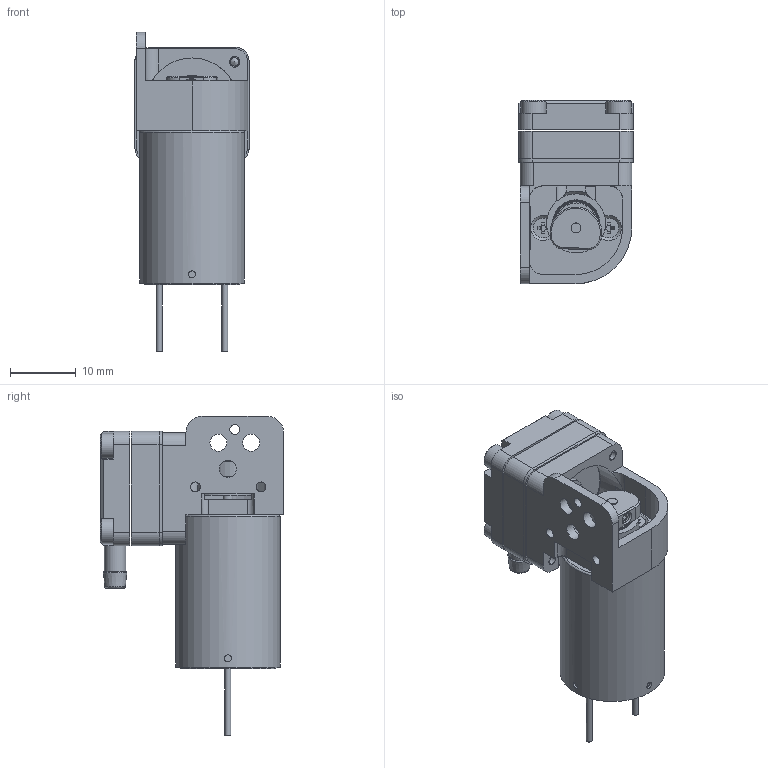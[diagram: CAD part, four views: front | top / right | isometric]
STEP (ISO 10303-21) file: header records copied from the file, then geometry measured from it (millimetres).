
FILE_DESCRIPTION (( 'STEP AP214' ), '1' );
FILE_NAME ('D260S-V.STEP', '2022-10-21T11:17:08', ( '' ), ( '' ), 'SwSTEP 2.0', 'SolidWorks 2021', '' );
FILE_SCHEMA (( 'AUTOMOTIVE_DESIGN' ));
Length unit declared in the file: millimetre
Products named in the file (1): D260S-V
Bounding box: 17.4 x 27.95 x 48.66 mm (x, y, z)
Surface area: 5998.2 mm2 (no closed solid volume)
Topology: 0 solids, 22 shells, 241 faces, 803 edges, 558 vertices
Faces by surface type: plane 133, cylinder 71, cone 23, bspline 14
Full cylindrical faces by diameter (mm): 0.9 x2, 1.04 x4, 1.5 x4, 1.6 x4, 2 x2, 2.6 x3, 3 x2, 3.25 x2, 3.8 x4, 6.5 x1, 14.2 x1, 14.6 x1, 15.95 x1
Entity records: 14484 total; most frequent: CARTESIAN_POINT 8326, DIRECTION 1161, ORIENTED_EDGE 1124, EDGE_CURVE 645, VERTEX_POINT 485, AXIS2_PLACEMENT_3D 408, EDGE_LOOP 364, VECTOR 345
